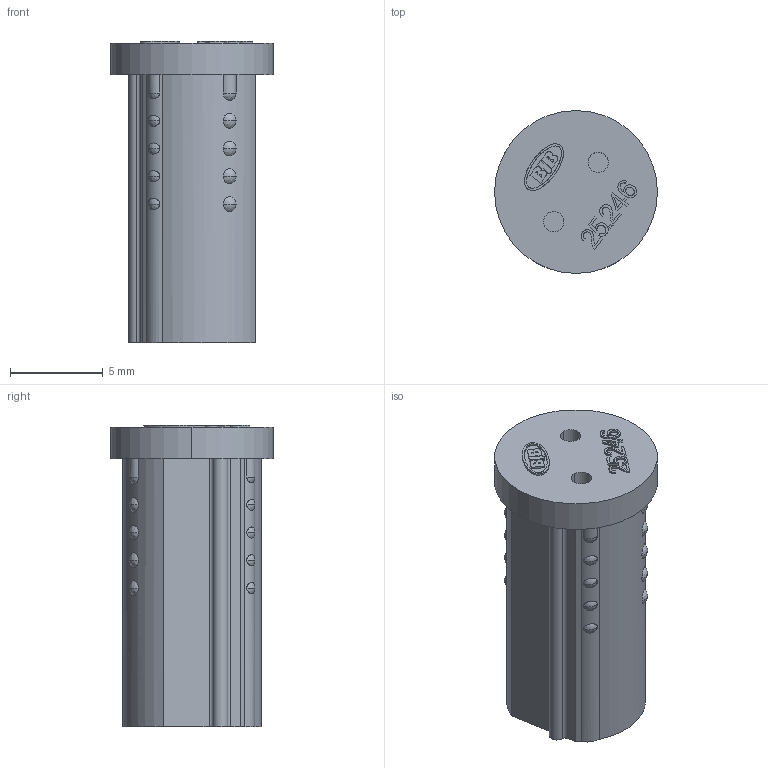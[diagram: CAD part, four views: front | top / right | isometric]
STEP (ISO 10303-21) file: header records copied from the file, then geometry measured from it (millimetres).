
FILE_DESCRIPTION((' '),'1');
FILE_NAME('00YY105Y0E.stp','2010-09-29 T09:53:09',(' '),(' '),'STEP Interface v1.0 by CT CoreTechnologie','3D_Evolution v1.0 by CT CoreTechnologie',' ');
FILE_SCHEMA(('CONFIG_CONTROL_DESIGN'));
Length unit declared in the file: millimetre
Products named in the file (1): 00YY105Y0E
Bounding box: 8.8 x 8.8 x 16.3 mm (x, y, z)
Volume: 630.4 mm3; surface area: 674.7 mm2
Topology: 1 solids, 1 shells, 201 faces, 569 edges, 374 vertices
Faces by surface type: plane 92, cylinder 67, bspline 42
Entity records: 10829 total; most frequent: CARTESIAN_POINT 3927, ORIENTED_EDGE 1066, DIRECTION 1023, EDGE_CURVE 533, VERTEX_POINT 374, AXIS2_PLACEMENT_3D 362, VECTOR 299, LINE 299
